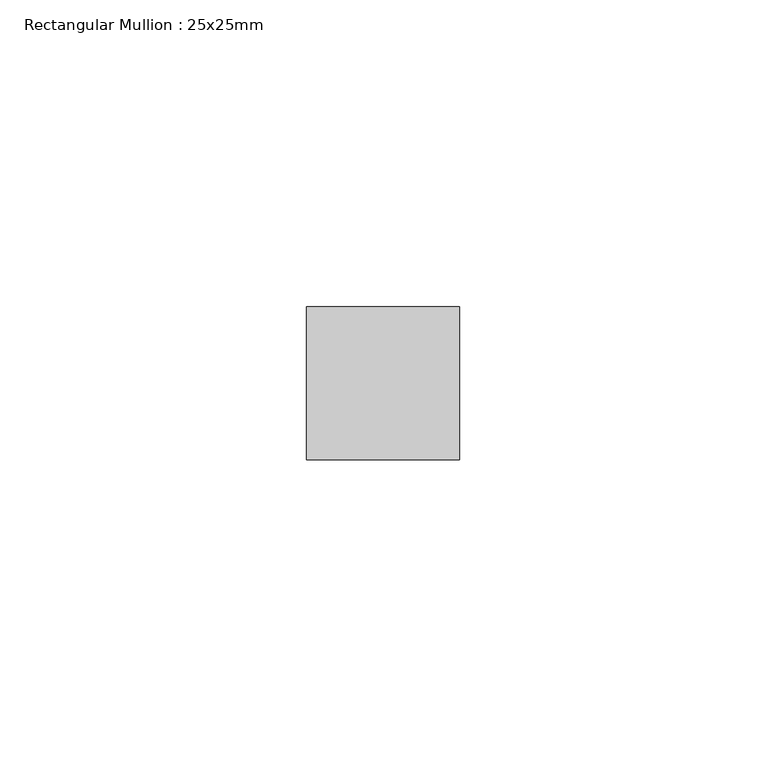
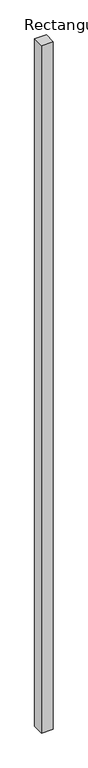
"""IFC4 building model written with IfcOpenShell, lengths in millimetres: member geometry, Rectangular Mullion : 25x25mm."""

from ifc_helpers import new_model, si_unit, frame, origin, place, context, project, spatial, polyline, outline, extrude, source, transform, mapped, element, save


def rectangular_mullion_25x25mm_39486c0a(model_context):
    return source(origin(), model_context, "Body", "SweptSolid", [
        extrude(outline(polyline([(0.0, 24.5), (0.0, -0.5), (-25.0, -0.5), (-25.0, 24.5), (0.0, 24.5)])), frame((0.0, 0.0, -1546.4285714), z_axis=(0.0, 0.0, 1.0), x_axis=(1.0, 0.0, 0.0)), (0.0, 0.0, 1.0), 1546.4285714),
    ])


if __name__ == "__main__":
    model = new_model("IFC4")
    model_context = context("Model", 3, world=origin())
    ifc_project = project(units=[si_unit("LENGTHUNIT", "METRE", prefix="MILLI")], contexts=[model_context])
    site = spatial("IfcSite", under=ifc_project)
    building = spatial("IfcBuilding", under=site)
    placement = place(None, origin())
    rectangular_mullion_25x25mm_shape = rectangular_mullion_25x25mm_39486c0a(model_context)
    element("IfcMember", 1, ObjectType="Rectangular Mullion : 25x25mm", at=placement, inside=building, context=model_context, shape_type="MappedRepresentation", body=[
        mapped(rectangular_mullion_25x25mm_shape, transform((0.0, 0.0, 0.0), x_axis=(1.0, 0.0, 0.0), y_axis=(0.0, 1.0, 0.0), z_axis=(0.0, 0.0, 1.0))),
    ])
    save(model, "model.ifc")
